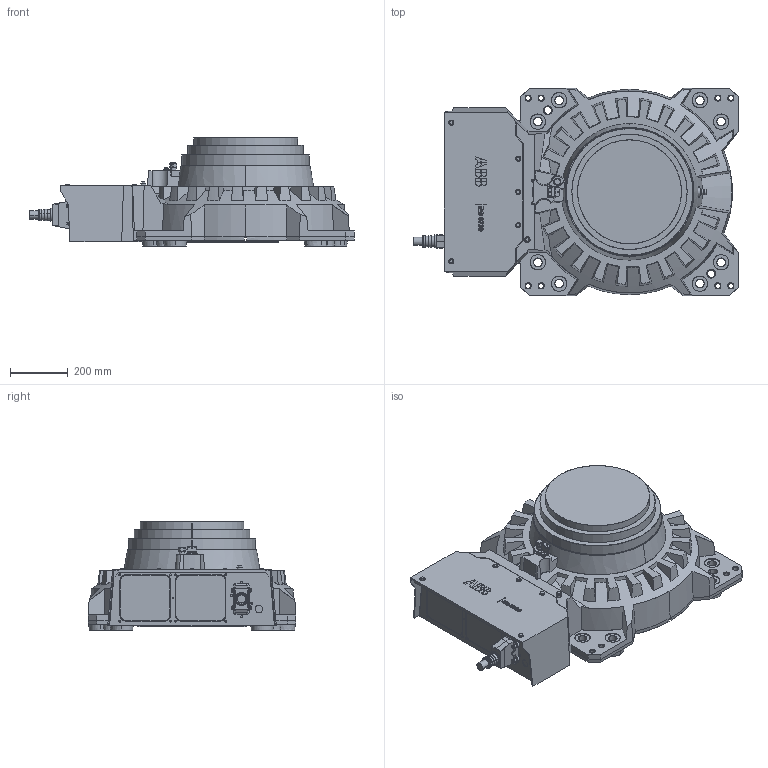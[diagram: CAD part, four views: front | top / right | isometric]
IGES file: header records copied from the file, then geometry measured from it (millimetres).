
Start section: SolidWorks IGES file using analytic representation for surfaces
Global section: file name: C:\DATA\SAP_DOC\LW\IRB 6730\IRB6730_210kg-310_OC_01_SW_J\Export\IRB6730_210kg-310_OC_01_IGES_J\IRB6730_210kg-310_OC_00_BASE_CAD.igs; native system: SolidWorks 2024; preprocessor: SolidWorks 2024; author: SEJOVAS3; date: 260526.104037; units: millimetre
Bounding box: 1124.5 x 720 x 374 mm (x, y, z)
Surface area: 2785975.4 mm2 (no closed solid volume)
Topology: 0 solids, 0 shells, 1133 faces, 16392 edges, 16388 vertices
Faces by surface type: bspline 678, revolution 455
